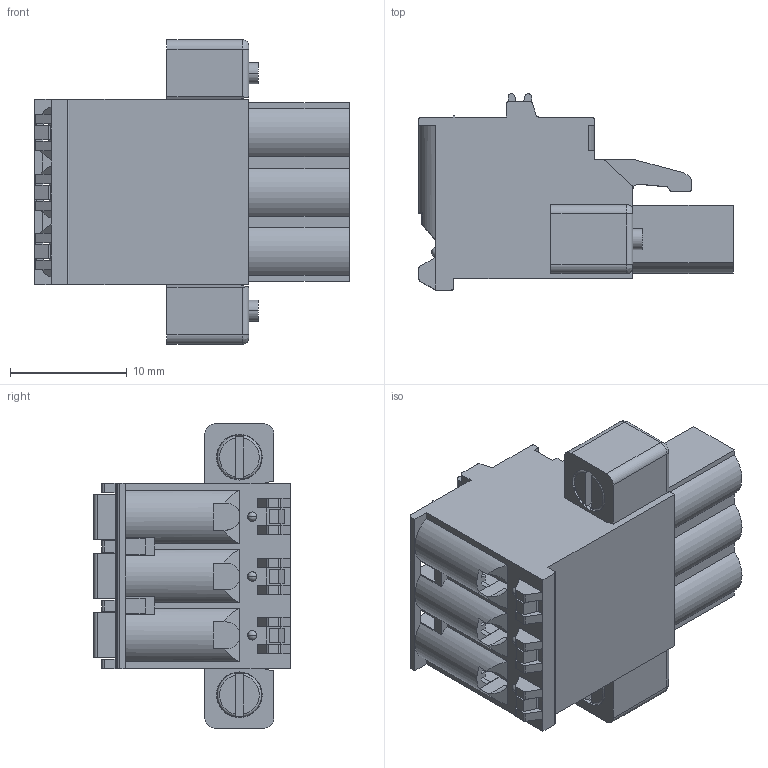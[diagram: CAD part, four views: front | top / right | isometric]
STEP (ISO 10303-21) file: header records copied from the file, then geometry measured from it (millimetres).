
FILE_DESCRIPTION((''),'2;1');
FILE_NAME('3PIN_SW0001','2019-05-28T',('zhenbing.lai'),(''),'CREO PARAMETRIC BY PTC INC, 2016260','CREO PARAMETRIC BY PTC INC, 2016260','');
FILE_SCHEMA(('CONFIG_CONTROL_DESIGN'));
Length unit declared in the file: millimetre
Products named in the file (1): 3PIN_SW0001
Bounding box: 26.9 x 16.8 x 26.02 mm (x, y, z)
Volume: 4326.2 mm3; surface area: 3435.3 mm2
Topology: 1 solids, 1 shells, 667 faces, 1994 edges, 1316 vertices
Faces by surface type: plane 396, cylinder 210, bspline 28, cone 19, torus 8, sphere 6
Entity records: 26100 total; most frequent: CARTESIAN_POINT 8194, ORIENTED_EDGE 3976, DIRECTION 3460, EDGE_CURVE 1988, VERTEX_POINT 1316, VECTOR 1312, LINE 1312, AXIS2_PLACEMENT_3D 1074
